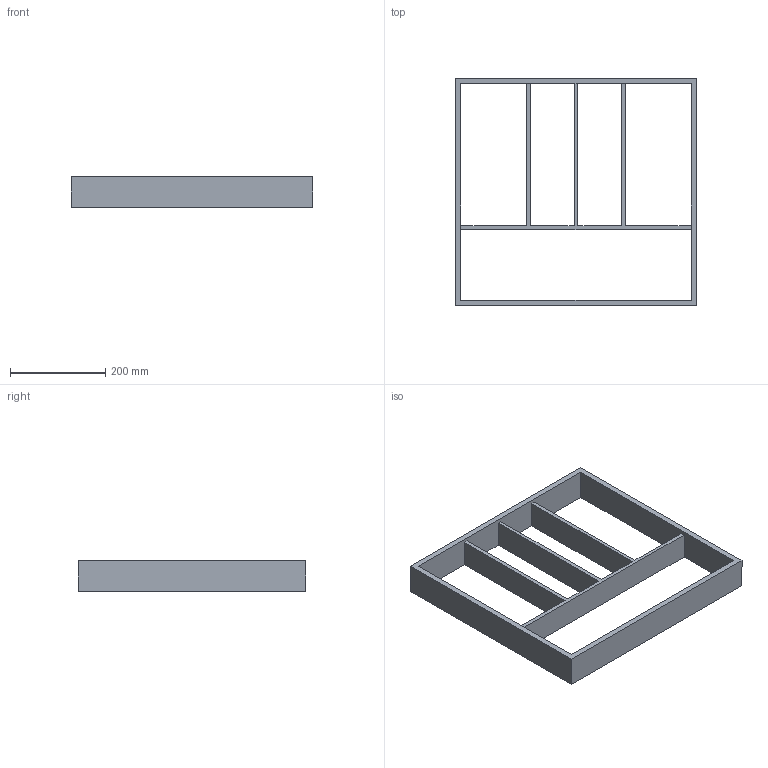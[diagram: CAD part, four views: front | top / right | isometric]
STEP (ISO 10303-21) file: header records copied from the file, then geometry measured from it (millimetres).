
FILE_DESCRIPTION (( 'STEP AP214' ), '1' );
FILE_NAME ('Vario Multi NL500_B600_16 mm_Buche.step', '2010-10-07T06:24:18', ( 'grass' ), ( '' ), 'SwSTEP 2.0', 'SolidWorks 2010', '' );
FILE_SCHEMA (( 'AUTOMOTIVE_DESIGN' ));
Length unit declared in the file: millimetre
Products named in the file (1): Vario Multi NL500_B600_16 mm_Buche
Bounding box: 508 x 479 x 65 mm (x, y, z)
Volume: 2131742.4 mm3; surface area: 472408 mm2
Topology: 1 solids, 1 shells, 22 faces, 72 edges, 48 vertices
Faces by surface type: plane 22
Entity records: 830 total; most frequent: ORIENTED_EDGE 144, CARTESIAN_POINT 143, DIRECTION 118, EDGE_CURVE 72, VECTOR 72, LINE 72, VERTEX_POINT 48, EDGE_LOOP 28
